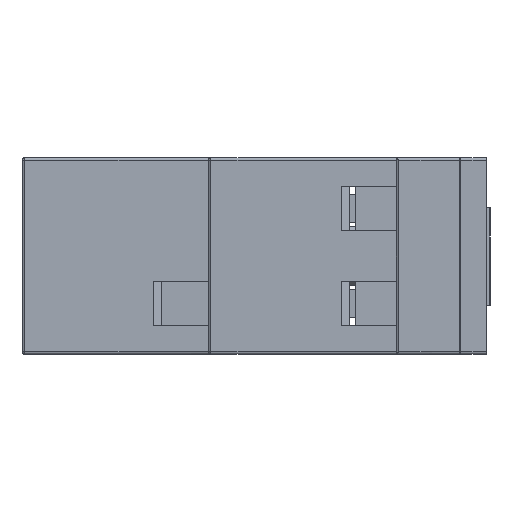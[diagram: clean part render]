
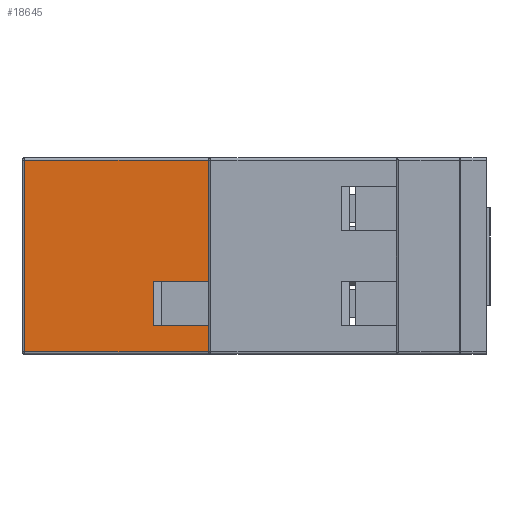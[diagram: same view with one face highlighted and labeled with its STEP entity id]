
A CAD part, left-side view. The second image highlights one B-rep face of the part: STEP entity #18645.
In plain terms, the highlighted planar face has unit normal (-1, 0, 0).
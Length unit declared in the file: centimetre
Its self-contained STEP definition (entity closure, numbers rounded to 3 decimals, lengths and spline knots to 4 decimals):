
#2066=LINE('',#28638,#4405);
#2068=LINE('',#28642,#4407);
#2073=LINE('',#28657,#4412);
#2080=LINE('',#28678,#4419);
#2081=LINE('',#28680,#4420);
#2082=LINE('',#28682,#4421);
#2083=LINE('',#28684,#4422);
#2084=LINE('',#28685,#4423);
#4405=VECTOR('',#23371,1.45);
#4407=VECTOR('',#23377,1.51);
#4412=VECTOR('',#23398,1.45);
#4419=VECTOR('',#23425,0.205);
#4420=VECTOR('',#23426,0.4343);
#4421=VECTOR('',#23427,0.35);
#4422=VECTOR('',#23428,0.4343);
#4423=VECTOR('',#23429,0.955);
#5544=FACE_OUTER_BOUND('',#6528,.T.);
#6528=EDGE_LOOP('',(#14709,#14710,#14711,#14712,#14713,#14714,#14715,#14716));
#8379=VERTEX_POINT('',#28608);
#8382=VERTEX_POINT('',#28621);
#8385=VERTEX_POINT('',#28637);
#8387=VERTEX_POINT('',#28656);
#8391=VERTEX_POINT('',#28677);
#8392=VERTEX_POINT('',#28679);
#8393=VERTEX_POINT('',#28681);
#8394=VERTEX_POINT('',#28683);
#10620=EDGE_CURVE('',#8385,#8382,#2066,.T.);
#10623=EDGE_CURVE('',#8382,#8379,#2068,.T.);
#10629=EDGE_CURVE('',#8379,#8387,#2073,.T.);
#10640=EDGE_CURVE('',#8391,#8385,#2080,.T.);
#10641=EDGE_CURVE('',#8391,#8392,#2081,.T.);
#10642=EDGE_CURVE('',#8392,#8393,#2082,.T.);
#10643=EDGE_CURVE('',#8394,#8393,#2083,.T.);
#10644=EDGE_CURVE('',#8387,#8394,#2084,.T.);
#14709=ORIENTED_EDGE('',*,*,#10629,.F.);
#14710=ORIENTED_EDGE('',*,*,#10623,.F.);
#14711=ORIENTED_EDGE('',*,*,#10620,.F.);
#14712=ORIENTED_EDGE('',*,*,#10640,.F.);
#14713=ORIENTED_EDGE('',*,*,#10641,.T.);
#14714=ORIENTED_EDGE('',*,*,#10642,.T.);
#14715=ORIENTED_EDGE('',*,*,#10643,.F.);
#14716=ORIENTED_EDGE('',*,*,#10644,.F.);
#16808=PLANE('',#19721);
#18645=ADVANCED_FACE('',(#5544),#16808,.T.);
#19721=AXIS2_PLACEMENT_3D('',#28676,#23423,#23424);
#23371=DIRECTION('',(0.,1.,0.));
#23377=DIRECTION('',(0.,0.,1.));
#23398=DIRECTION('',(0.,-1.,0.));
#23423=DIRECTION('center_axis',(-1.,0.,0.));
#23424=DIRECTION('ref_axis',(0.,0.,1.));
#23425=DIRECTION('',(0.,0.,-1.));
#23426=DIRECTION('',(0.,1.,0.));
#23427=DIRECTION('',(0.,0.,1.));
#23428=DIRECTION('',(0.,1.,0.));
#23429=DIRECTION('',(0.,0.,-1.));
#28608=CARTESIAN_POINT('',(-2.9676,2.765,0.7618));
#28621=CARTESIAN_POINT('',(-2.9676,2.765,-0.7482));
#28637=CARTESIAN_POINT('',(-2.9676,1.315,-0.7482));
#28638=CARTESIAN_POINT('',(-2.9676,1.127,-0.7482));
#28642=CARTESIAN_POINT('',(-2.9676,2.765,-0.7682));
#28656=CARTESIAN_POINT('',(-2.9676,1.315,0.7618));
#28657=CARTESIAN_POINT('',(-2.9676,1.127,0.7618));
#28676=CARTESIAN_POINT('Origin',(-2.9676,1.335,-0.7682));
#28677=CARTESIAN_POINT('',(-2.9676,1.315,-0.5432));
#28678=CARTESIAN_POINT('',(-2.9676,1.315,-0.5432));
#28679=CARTESIAN_POINT('',(-2.9676,1.7493,-0.5432));
#28680=CARTESIAN_POINT('',(-2.9676,0.46,-0.5432));
#28681=CARTESIAN_POINT('',(-2.9676,1.7493,-0.1932));
#28682=CARTESIAN_POINT('',(-2.9676,1.7493,-0.5682));
#28683=CARTESIAN_POINT('',(-2.9676,1.315,-0.1932));
#28684=CARTESIAN_POINT('',(-2.9676,-0.415,-0.1932));
#28685=CARTESIAN_POINT('',(-2.9676,1.315,-0.5432));
